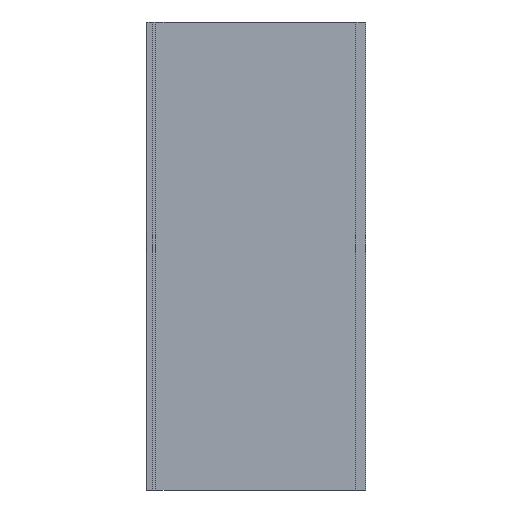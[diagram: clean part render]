
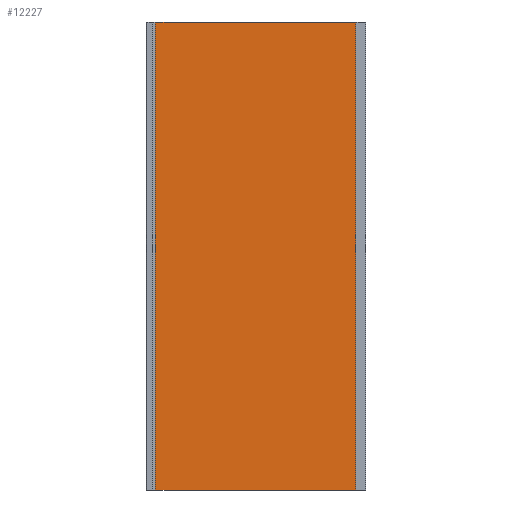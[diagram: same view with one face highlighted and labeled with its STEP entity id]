
A CAD part, front view. The second image highlights one B-rep face of the part: STEP entity #12227.
In plain terms, the highlighted planar face has unit normal (0, -1, 0).
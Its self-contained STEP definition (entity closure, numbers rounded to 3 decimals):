
#330=FACE_OUTER_BOUND('',#693,.T.);
#693=EDGE_LOOP('',(#10682,#10683,#10684,#10685));
#2310=LINE('',#19718,#4377);
#2311=LINE('',#19720,#4378);
#2312=LINE('',#19722,#4379);
#2313=LINE('',#19723,#4380);
#4377=VECTOR('',#15488,10.);
#4378=VECTOR('',#15489,10.);
#4379=VECTOR('',#15490,10.);
#4380=VECTOR('',#15491,10.);
#6468=VERTEX_POINT('',#19716);
#6469=VERTEX_POINT('',#19717);
#6470=VERTEX_POINT('',#19719);
#6471=VERTEX_POINT('',#19721);
#8575=EDGE_CURVE('',#6468,#6469,#2310,.T.);
#8576=EDGE_CURVE('',#6469,#6470,#2311,.T.);
#8577=EDGE_CURVE('',#6471,#6470,#2312,.T.);
#8578=EDGE_CURVE('',#6468,#6471,#2313,.T.);
#10682=ORIENTED_EDGE('',*,*,#8575,.T.);
#10683=ORIENTED_EDGE('',*,*,#8576,.T.);
#10684=ORIENTED_EDGE('',*,*,#8577,.F.);
#10685=ORIENTED_EDGE('',*,*,#8578,.F.);
#11505=PLANE('',#13334);
#12227=ADVANCED_FACE('',(#330),#11505,.T.);
#13334=AXIS2_PLACEMENT_3D('',#19715,#15486,#15487);
#15486=DIRECTION('center_axis',(0.,-1.,0.));
#15487=DIRECTION('ref_axis',(0.,0.,-1.));
#15488=DIRECTION('',(0.,0.,1.));
#15489=DIRECTION('',(-1.,0.,0.));
#15490=DIRECTION('',(0.,0.,1.));
#15491=DIRECTION('',(-1.,0.,0.));
#19715=CARTESIAN_POINT('Origin',(1992.224,-2502.399,950.));
#19716=CARTESIAN_POINT('',(1992.224,-2502.399,0.));
#19717=CARTESIAN_POINT('',(1992.224,-2502.399,1900.));
#19718=CARTESIAN_POINT('',(1992.224,-2502.399,0.));
#19719=CARTESIAN_POINT('',(1136.426,-2502.399,1900.));
#19720=CARTESIAN_POINT('',(1992.224,-2502.399,1900.));
#19721=CARTESIAN_POINT('',(1136.426,-2502.399,0.));
#19722=CARTESIAN_POINT('',(1136.426,-2502.399,0.));
#19723=CARTESIAN_POINT('',(1992.224,-2502.399,0.));
